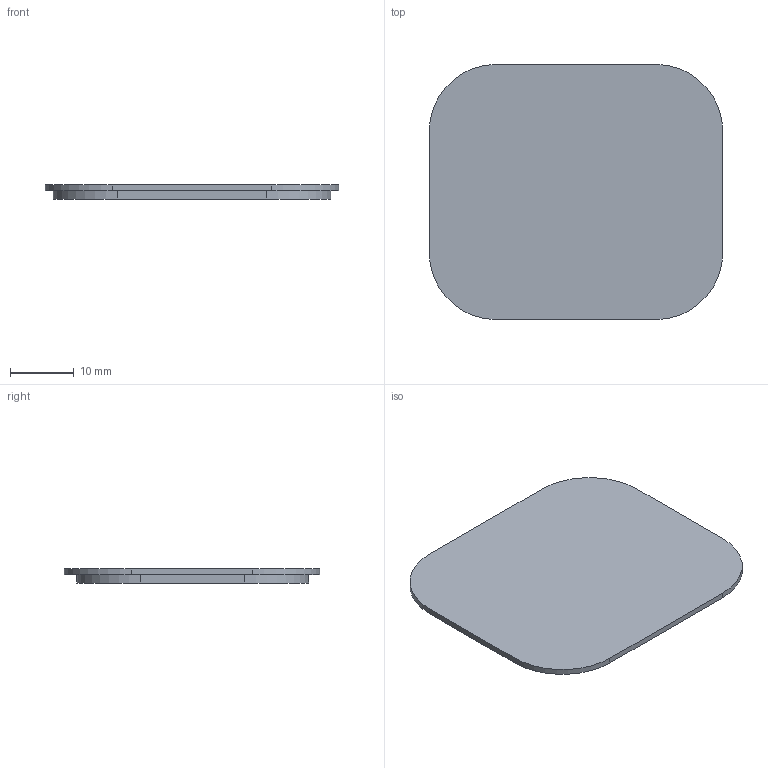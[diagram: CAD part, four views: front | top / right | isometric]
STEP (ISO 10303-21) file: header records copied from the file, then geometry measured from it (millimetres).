
FILE_DESCRIPTION(('FreeCAD Model'),'2;1');
FILE_NAME('Open CASCADE Shape Model','2026-09-22T01:38:06',('FreeCAD'),( 'FreeCAD'),'Open CASCADE STEP processor 7.8','FreeCAD','Unknown');
FILE_SCHEMA(('AUTOMOTIVE_DESIGN { 1 0 10303 214 1 1 1 1 }'));
Length unit declared in the file: millimetre
Products named in the file (1): Open CASCADE STEP translator 7.8 5
Bounding box: 46 x 40 x 2.2 mm (x, y, z)
Volume: 3511.3 mm3; surface area: 3814.4 mm2
Topology: 1 solids, 1 shells, 19 faces, 48 edges, 32 vertices
Faces by surface type: plane 11, cylinder 8
Entity records: 588 total; most frequent: DIRECTION 104, CARTESIAN_POINT 100, ORIENTED_EDGE 96, EDGE_CURVE 48, AXIS2_PLACEMENT_3D 36, VERTEX_POINT 32, LINE 32, VECTOR 32
